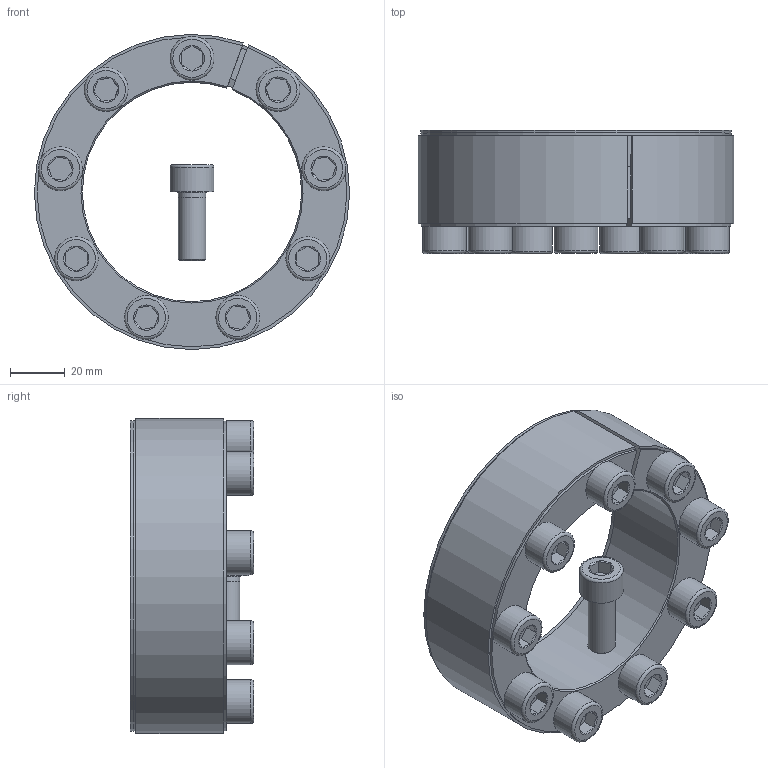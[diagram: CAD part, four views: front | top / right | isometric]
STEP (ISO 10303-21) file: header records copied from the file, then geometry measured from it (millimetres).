
FILE_DESCRIPTION( ( 'Unknown' ), '1' );
FILE_NAME( 'C:/Dokumente und Einstellungen/Sven/Desktop/homepage/cad - homepage/KBS52/KBS 52 - 80 x 115.stp', 'Unknown', ( 'Unknown' ), ( 'Unknown' ), 'XStep 1.0', 'Unknown', ' ' );
FILE_SCHEMA( ( 'automotive_design' ) );
Length unit declared in the file: millimetre
Products named in the file (3): Assem1; KBS 52 - 80 x 115; ISO EN DIN 4762 M10x25
Bounding box: 115 x 45 x 114.99 mm (x, y, z)
Volume: 358821.6 mm3; surface area: 100121.3 mm2
Topology: 12 solids, 12 shells, 308 faces, 606 edges, 360 vertices
Faces by surface type: plane 146, cone 76, cylinder 66, torus 20
Full cylindrical faces by diameter (mm): 9 x10, 10 x38, 16 x10, 113.175 x2
Entity records: 1789 total; most frequent: CARTESIAN_POINT 289, DIRECTION 271, ORIENTED_EDGE 200, AXIS2_PLACEMENT_3D 114, EDGE_CURVE 100, EDGE_LOOP 96, VERTEX_POINT 72, FACE_OUTER_BOUND 70
